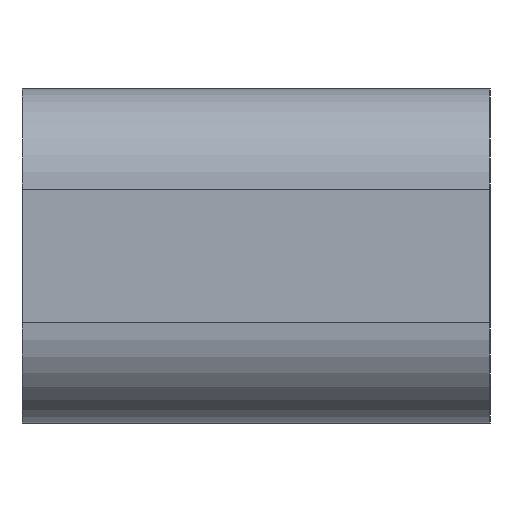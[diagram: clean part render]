
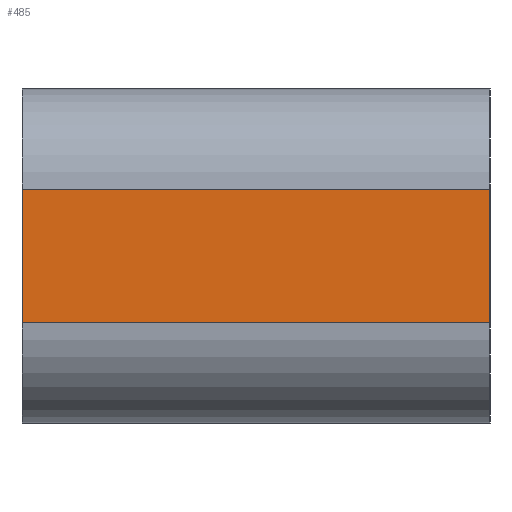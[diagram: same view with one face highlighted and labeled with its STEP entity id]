
A CAD part, left-side view. The second image highlights one B-rep face of the part: STEP entity #485.
In plain terms, the highlighted planar face has unit normal (-1, 0, 0).
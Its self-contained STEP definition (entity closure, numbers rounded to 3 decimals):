
#130 = VERTEX_POINT('',#131);
#131 = CARTESIAN_POINT('',(-115.,95.,283.));
#138 = EDGE_CURVE('',#139,#130,#141,.T.);
#139 = VERTEX_POINT('',#140);
#140 = CARTESIAN_POINT('',(-115.,81.,283.));
#141 = LINE('',#142,#143);
#142 = CARTESIAN_POINT('',(-115.,81.,283.));
#143 = VECTOR('',#144,1.);
#144 = DIRECTION('',(-0.,1.,0.));
#198 = EDGE_CURVE('',#199,#139,#201,.T.);
#199 = VERTEX_POINT('',#200);
#200 = CARTESIAN_POINT('',(-115.,81.,279.));
#201 = LINE('',#202,#203);
#202 = CARTESIAN_POINT('',(-115.,81.,279.));
#203 = VECTOR('',#204,1.);
#204 = DIRECTION('',(0.,0.,1.));
#232 = VERTEX_POINT('',#233);
#233 = CARTESIAN_POINT('',(-115.,95.,279.));
#240 = EDGE_CURVE('',#232,#130,#241,.T.);
#241 = LINE('',#242,#243);
#242 = CARTESIAN_POINT('',(-115.,95.,279.));
#243 = VECTOR('',#244,1.);
#244 = DIRECTION('',(0.,0.,1.));
#485 = ADVANCED_FACE('',(#486),#497,.F.);
#486 = FACE_BOUND('',#487,.F.);
#487 = EDGE_LOOP('',(#488,#489,#495,#496));
#488 = ORIENTED_EDGE('',*,*,#198,.F.);
#489 = ORIENTED_EDGE('',*,*,#490,.T.);
#490 = EDGE_CURVE('',#199,#232,#491,.T.);
#491 = LINE('',#492,#493);
#492 = CARTESIAN_POINT('',(-115.,81.,279.));
#493 = VECTOR('',#494,1.);
#494 = DIRECTION('',(-0.,1.,0.));
#495 = ORIENTED_EDGE('',*,*,#240,.T.);
#496 = ORIENTED_EDGE('',*,*,#138,.F.);
#497 = PLANE('',#498);
#498 = AXIS2_PLACEMENT_3D('',#499,#500,#501);
#499 = CARTESIAN_POINT('',(-115.,81.,279.));
#500 = DIRECTION('',(1.,0.,-0.));
#501 = DIRECTION('',(0.,0.,1.));
